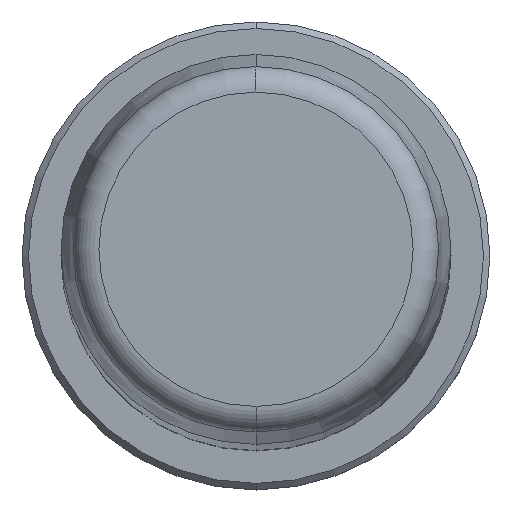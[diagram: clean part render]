
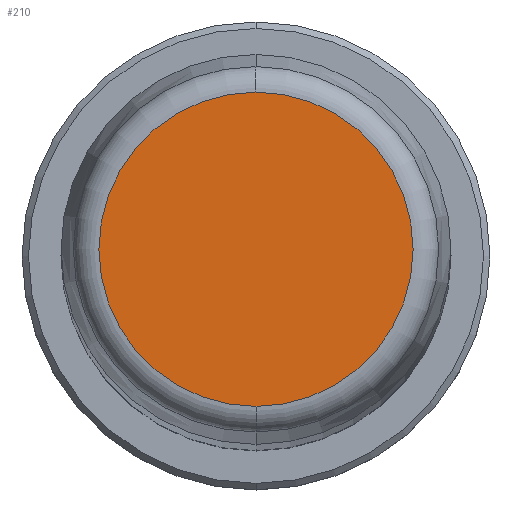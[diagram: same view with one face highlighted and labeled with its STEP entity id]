
A CAD part, top view. The second image highlights one B-rep face of the part: STEP entity #210.
In plain terms, the highlighted planar face has unit normal (0, 0, 1).
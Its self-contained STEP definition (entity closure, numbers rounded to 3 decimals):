
#1=CARTESIAN_POINT('',(0.,0.,300.));
#2=DIRECTION('',(0.,0.,-1.));
#3=DIRECTION('',(0.,-1.,0.));
#4=AXIS2_PLACEMENT_3D('',#1,#2,#3);
#6=CARTESIAN_POINT('',(0.,0.,300.));
#7=DIRECTION('',(0.,0.,-1.));
#8=DIRECTION('',(0.,1.,0.));
#9=AXIS2_PLACEMENT_3D('',#6,#7,#8);
#183=CARTESIAN_POINT('',(0.,-12.088,300.));
#184=CARTESIAN_POINT('',(0.,12.088,300.));
#185=VERTEX_POINT('',#183);
#186=VERTEX_POINT('',#184);
#199=CARTESIAN_POINT('',(0.,0.,300.));
#200=DIRECTION('',(0.,0.,1.));
#201=DIRECTION('',(0.,-1.,0.));
#202=AXIS2_PLACEMENT_3D('',#199,#200,#201);
#203=PLANE('',#202);
#205=ORIENTED_EDGE('',*,*,#204,.T.);
#207=ORIENTED_EDGE('',*,*,#206,.T.);
#208=EDGE_LOOP('',(#205,#207));
#209=FACE_OUTER_BOUND('',#208,.F.);
#210=ADVANCED_FACE('',(#209),#203,.T.);
#5=CIRCLE('',#4,12.088);
#10=CIRCLE('',#9,12.088);
#204=EDGE_CURVE('',#185,#186,#5,.T.);
#206=EDGE_CURVE('',#186,#185,#10,.T.);
